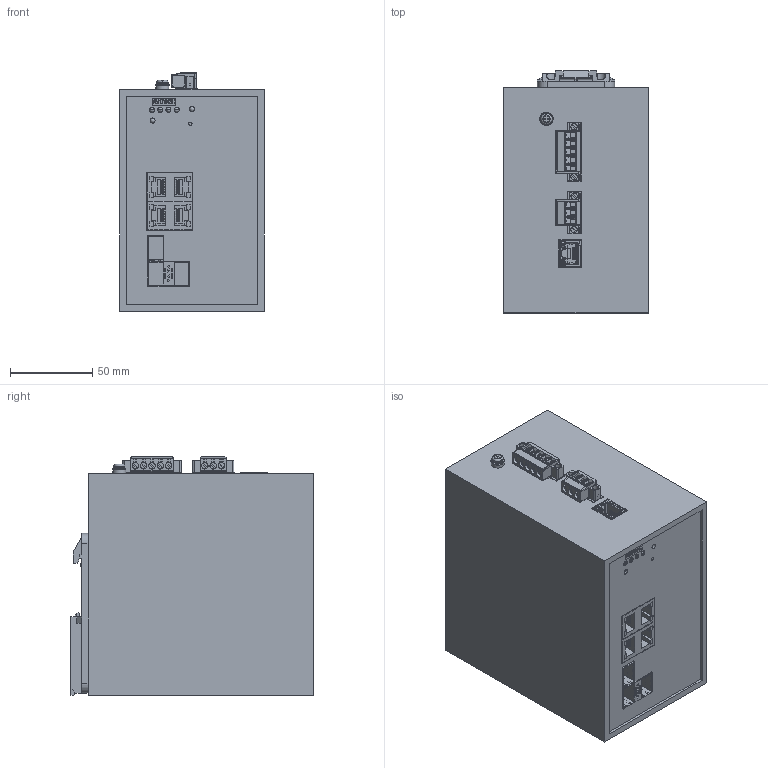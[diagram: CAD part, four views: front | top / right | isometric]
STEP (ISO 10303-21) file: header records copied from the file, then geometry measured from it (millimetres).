
FILE_DESCRIPTION(('TFLEX Exchange Step'),'2;1');
FILE_NAME('70210022_STEZ-RB-3GC-HV.stp', '2025-09-02T09:12:39+03:00',('YLedovskikh'),('Unknown organisation'),'TFLEX Exchange 2023.2','T-FLEX CAD','Unknown authorisation');
FILE_SCHEMA( ('AUTOMOTIVE_DESIGN { 1 0 10303 214 1 1 1 1 }') );
Length unit declared in the file: millimetre
Products named in the file (1): Тело_25 :1
Bounding box: 88 x 147.5 x 145.2 mm (x, y, z)
Volume: 1612221.1 mm3; surface area: 139335.1 mm2
Topology: 1 solids, 37 shells, 3690 faces, 10841 edges, 7139 vertices
Faces by surface type: plane 2676, cylinder 739, bspline 185, cone 33, sphere 22, torus 19, extrusion 16
Full cylindrical faces by diameter (mm): 1.02 x16, 1.3 x8, 1.6 x4, 1.85 x4, 2 x4, 2.5 x4, 2.6 x4, 3 x14, 3.2 x2, 3.8 x4, 3.821 x8, 3.9 x4, 4 x9, 4.4 x1, 6.8 x1, 7.9 x1
Entity records: 126837 total; most frequent: CARTESIAN_POINT 26746, ORIENTED_EDGE 21642, DIRECTION 19039, EDGE_CURVE 10821, VECTOR 8265, LINE 8249, VERTEX_POINT 7139, AXIS2_PLACEMENT_3D 5387
